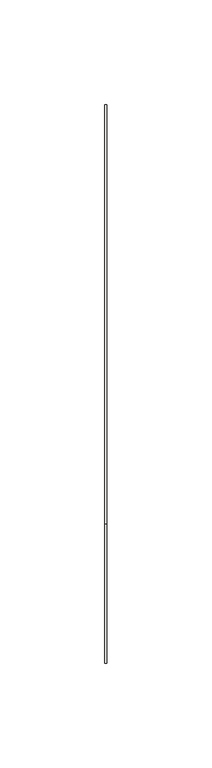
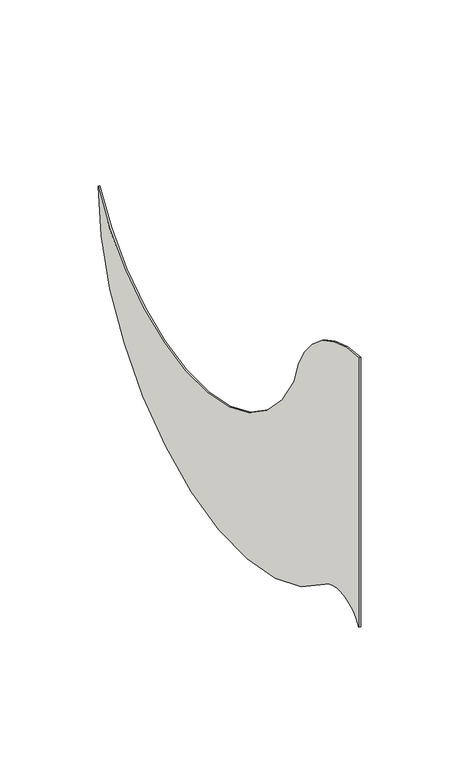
"""IFC4 building model written with IfcOpenShell, lengths in millimetres: wall geometry, 小旗 : 小旗."""

from ifc_helpers import new_model, si_unit, point, frame, frame_2d, origin, place, context, project, spatial, polyline, circle_curve, trimmed, segment, composite_curve, outline, extrude, source, transform, mapped, element, save


def wall_13de7da4(model_context):
    return source(origin(), model_context, "Body", "SweptSolid", [
        extrude(outline(composite_curve([segment(trimmed(circle_curve(frame_2d((1722.9183811, 5219.8746111)), 23.4648855), [point((1737.9183811, 5237.9190243))], [point((1703.079125, 5232.4047654))], True, "CARTESIAN"), True, "CONTINUOUS"), segment(polyline([(1703.079125, 5232.4047654), (1703.079125, 5400.0225996)]), True, "CONTINUOUS"), segment(trimmed(circle_curve(frame_2d((1701.8927213, 5331.3505675)), 68.6822798), [point((1703.079125, 5400.0225996))], [point((1769.1304027, 5345.3630532))], False, "CARTESIAN"), True, "CONTINUOUS"), segment(trimmed(circle_curve(frame_2d((1869.1304027, 5396.3289437)), 112.2386831), [point((1769.1304027, 5345.3630532))], [point((1969.1304027, 5345.3630532))], True, "CARTESIAN"), True, "CONTINUOUS"), segment(trimmed(circle_curve(frame_2d((1828.0846684, 5346.3855411)), 141.0494404), [point((1969.1304027, 5345.3630532))], [point((1737.9183811, 5237.9190243))], False, "CARTESIAN"), True, "CONTINUOUS")], self_intersect=False)), frame((4767.1436939, 0.0, 0.0), z_axis=(1.0, 0.0, 0.0), x_axis=(0.0, 1.0, 0.0)), (0.0, 0.0, 1.0), 1.0),
    ])


if __name__ == "__main__":
    model = new_model("IFC4")
    model_context = context("Model", 3, world=origin())
    ifc_project = project(units=[si_unit("LENGTHUNIT", "METRE", prefix="MILLI")], contexts=[model_context])
    site = spatial("IfcSite", under=ifc_project)
    building = spatial("IfcBuilding", under=site)
    placement = place(None, origin())
    wall_shape = wall_13de7da4(model_context)
    element("IfcWall", 1, ObjectType="小旗 : 小旗", at=placement, inside=building, context=model_context, shape_type="MappedRepresentation", body=[
        mapped(wall_shape, transform((0.0, 0.0, 0.0), x_axis=(1.0, 0.0, 0.0), y_axis=(0.0, 1.0, 0.0), z_axis=(0.0, 0.0, 1.0))),
    ])
    save(model, "model.ifc")
